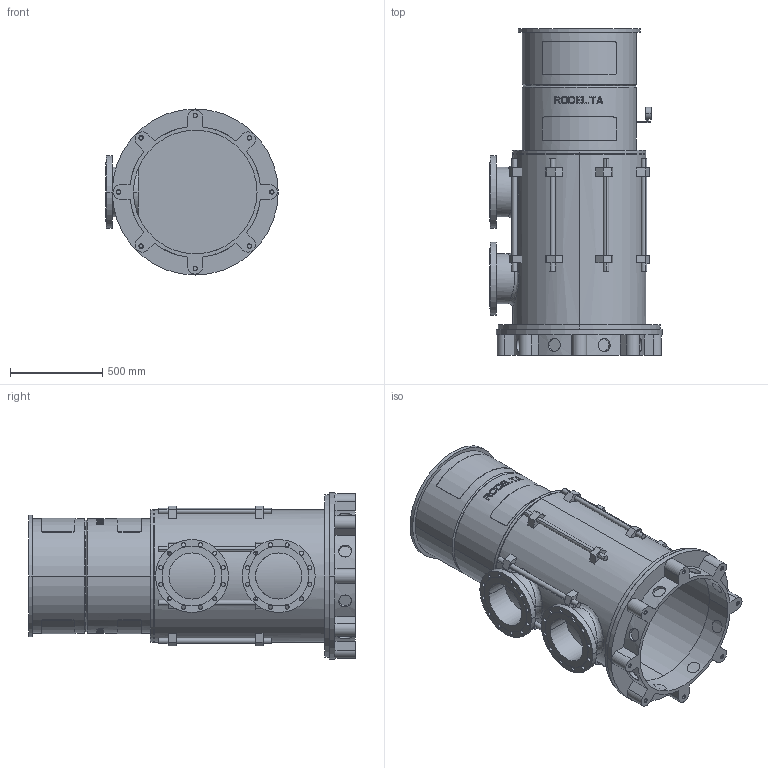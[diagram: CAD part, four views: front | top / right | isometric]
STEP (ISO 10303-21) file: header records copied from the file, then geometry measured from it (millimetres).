
FILE_DESCRIPTION((''),'2;1');
FILE_NAME('LS10_1TR_0GR','2025-10-20T10:12:13',('Lyritlocal'),(''),'CREO PARAMETRIC BY PTC INC, 2022014','CREO PARAMETRIC BY PTC INC, 2022014','');
FILE_SCHEMA(('CONFIG_CONTROL_DESIGN'));
Length unit declared in the file: millimetre
Products named in the file (1): LS10_1TR_0GR
Bounding box: 935 x 1770 x 900 mm (x, y, z)
Volume: 82856977.6 mm3; surface area: 11020492 mm2
Topology: 3 solids, 11 shells, 752 faces, 1934 edges, 1288 vertices
Faces by surface type: plane 462, cylinder 274, cone 12, bspline 4
Entity records: 24364 total; most frequent: CARTESIAN_POINT 6018, ORIENTED_EDGE 3836, DIRECTION 3662, EDGE_CURVE 1934, AXIS2_PLACEMENT_3D 1381, VERTEX_POINT 1288, EDGE_LOOP 924, VECTOR 900
